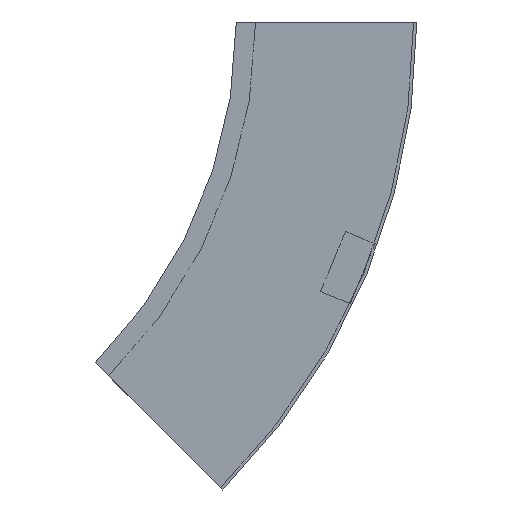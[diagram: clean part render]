
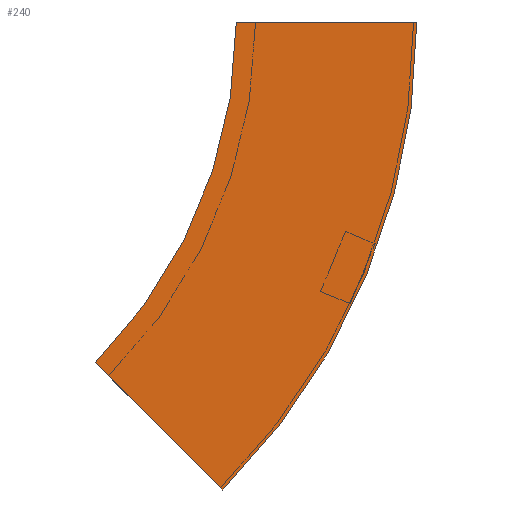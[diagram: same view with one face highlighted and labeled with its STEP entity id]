
A CAD part, left-side view. The second image highlights one B-rep face of the part: STEP entity #240.
In plain terms, the highlighted planar face has unit normal (-1, 0, 0) as drawn and (1, 0, 0) by its records, which use the part's own axes.
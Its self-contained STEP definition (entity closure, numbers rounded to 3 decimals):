
#1 = CARTESIAN_POINT ( 'NONE',  ( 0., 300., 0. ) ) ;
#6 = ORIENTED_EDGE ( 'NONE', *, *, #387, .T. ) ;
#23 = CARTESIAN_POINT ( 'NONE',  ( 0., -112.5, 0. ) ) ;
#42 = DIRECTION ( 'NONE',  ( 0., -1., 0. ) ) ;
#48 = EDGE_CURVE ( 'NONE', #218, #178, #470, .T. ) ;
#148 = CARTESIAN_POINT ( 'NONE',  ( 0., -112.5, 0. ) ) ;
#156 = CARTESIAN_POINT ( 'NONE',  ( 0., -112.5, 0. ) ) ;
#162 = VECTOR ( 'NONE', #255, 1000. ) ;
#169 = CARTESIAN_POINT ( 'NONE',  ( 0., 8.318, -291.682 ) ) ;
#178 = VERTEX_POINT ( 'NONE', #333 ) ;
#197 = FACE_OUTER_BOUND ( 'NONE', #456, .T. ) ;
#201 = DIRECTION ( 'NONE',  ( 1., 0., 0. ) ) ;
#218 = VERTEX_POINT ( 'NONE', #23 ) ;
#240 = ADVANCED_FACE ( 'NONE', ( #197 ), #324, .F. ) ;
#255 = DIRECTION ( 'NONE',  ( 0., 1., 0. ) ) ;
#284 = CIRCLE ( 'NONE', #402, 412.5 ) ;
#323 = CARTESIAN_POINT ( 'NONE',  ( 0., 300., 0. ) ) ;
#324 = PLANE ( 'NONE',  #432 ) ;
#333 = CARTESIAN_POINT ( 'NONE',  ( 0., 0., 0. ) ) ;
#354 = DIRECTION ( 'NONE',  ( -1., 0., 0. ) ) ;
#367 = DIRECTION ( 'NONE',  ( 0., -1., 0. ) ) ;
#385 = CARTESIAN_POINT ( 'NONE',  ( 0., 8.318, -291.682 ) ) ;
#387 = EDGE_CURVE ( 'NONE', #218, #431, #284, .T. ) ;
#388 = ORIENTED_EDGE ( 'NONE', *, *, #529, .F. ) ;
#402 = AXIS2_PLACEMENT_3D ( 'NONE', #323, #201, #367 ) ;
#403 = CIRCLE ( 'NONE', #433, 300. ) ;
#424 = DIRECTION ( 'NONE',  ( 0., 0.707, 0.707 ) ) ;
#430 = DIRECTION ( 'NONE',  ( 1., 0., 0. ) ) ;
#431 = VERTEX_POINT ( 'NONE', #169 ) ;
#432 = AXIS2_PLACEMENT_3D ( 'NONE', #148, #354, #537 ) ;
#433 = AXIS2_PLACEMENT_3D ( 'NONE', #1, #430, #42 ) ;
#456 = EDGE_LOOP ( 'NONE', ( #388, #484, #6, #481 ) ) ;
#470 = LINE ( 'NONE', #156, #162 ) ;
#481 = ORIENTED_EDGE ( 'NONE', *, *, #522, .T. ) ;
#484 = ORIENTED_EDGE ( 'NONE', *, *, #48, .F. ) ;
#504 = VERTEX_POINT ( 'NONE', #564 ) ;
#520 = LINE ( 'NONE', #385, #542 ) ;
#522 = EDGE_CURVE ( 'NONE', #431, #504, #520, .T. ) ;
#529 = EDGE_CURVE ( 'NONE', #178, #504, #403, .T. ) ;
#537 = DIRECTION ( 'NONE',  ( 0., 0., 1. ) ) ;
#542 = VECTOR ( 'NONE', #424, 1000. ) ;
#564 = CARTESIAN_POINT ( 'NONE',  ( 0., 87.868, -212.132 ) ) ;
